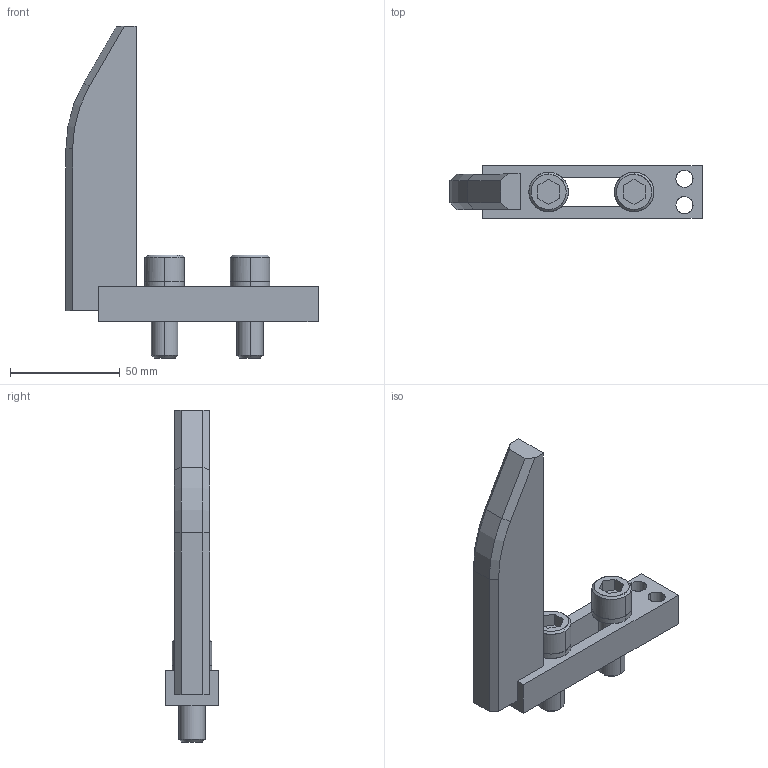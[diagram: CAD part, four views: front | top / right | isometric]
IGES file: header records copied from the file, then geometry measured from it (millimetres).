
Global section: file name: E:\UnigraphicsGraphicData\MISUMI_PRESS-PARTS\IGES\3d_ngnba-135-40-m12_01526_r00.igs; native system: NX V5.0; preprocessor: UGS NX IGES V5.0; author: MISUMI; date: 20110105.162047; units: millimetre
Bounding box: 115 x 24 x 151.5 mm (x, y, z)
Surface area: 28848.9 mm2 (no closed solid volume)
Topology: 0 solids, 0 shells, 100 faces, 630 edges, 630 vertices
Faces by surface type: bspline 100
